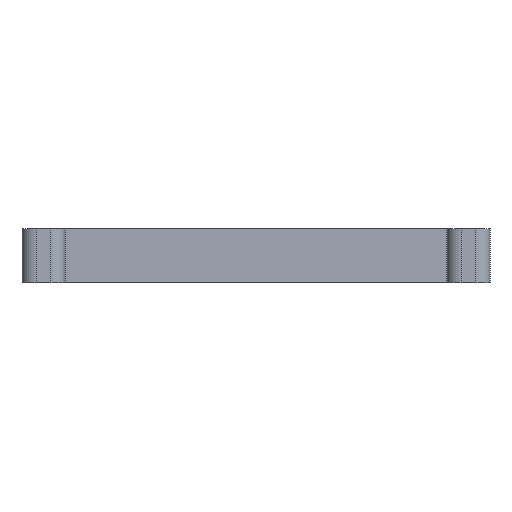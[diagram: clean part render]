
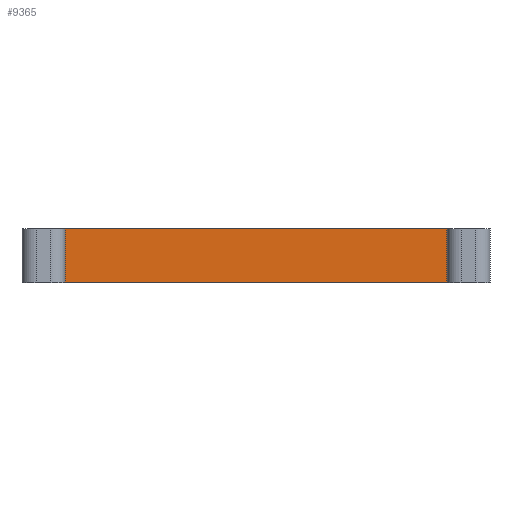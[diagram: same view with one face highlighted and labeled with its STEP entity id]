
A CAD part, front view. The second image highlights one B-rep face of the part: STEP entity #9365.
In plain terms, the highlighted planar face has unit normal (0, -1, 0).
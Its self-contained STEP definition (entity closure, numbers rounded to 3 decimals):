
#439 = DIRECTION ( 'NONE',  ( 0., 0., -1. ) ) ;
#660 = CARTESIAN_POINT ( 'NONE',  ( -26.5, -38., 7.5 ) ) ;
#1532 = ORIENTED_EDGE ( 'NONE', *, *, #10176, .F. ) ;
#1577 = AXIS2_PLACEMENT_3D ( 'NONE', #4098, #8197, #7308 ) ;
#1706 = VERTEX_POINT ( 'NONE', #660 ) ;
#1777 = CARTESIAN_POINT ( 'NONE',  ( 26.5, -38., 7.5 ) ) ;
#2279 = VERTEX_POINT ( 'NONE', #7418 ) ;
#2842 = VERTEX_POINT ( 'NONE', #7042 ) ;
#2909 = DIRECTION ( 'NONE',  ( 1., 0., 0. ) ) ;
#3057 = ORIENTED_EDGE ( 'NONE', *, *, #8725, .T. ) ;
#3144 = VECTOR ( 'NONE', #439, 1000. ) ;
#3704 = DIRECTION ( 'NONE',  ( 0., 0., -1. ) ) ;
#3814 = LINE ( 'NONE', #10233, #5009 ) ;
#4098 = CARTESIAN_POINT ( 'NONE',  ( 26.5, -38., 7.5 ) ) ;
#4277 = VECTOR ( 'NONE', #3704, 1000. ) ;
#4427 = EDGE_LOOP ( 'NONE', ( #5651, #1532, #5380, #3057 ) ) ;
#4758 = CARTESIAN_POINT ( 'NONE',  ( 26.5, -38., 7.5 ) ) ;
#4984 = EDGE_CURVE ( 'NONE', #1706, #2279, #7216, .T. ) ;
#5009 = VECTOR ( 'NONE', #2909, 1000. ) ;
#5380 = ORIENTED_EDGE ( 'NONE', *, *, #4984, .F. ) ;
#5464 = VECTOR ( 'NONE', #5637, 1000. ) ;
#5637 = DIRECTION ( 'NONE',  ( 1., 0., 0. ) ) ;
#5651 = ORIENTED_EDGE ( 'NONE', *, *, #7668, .T. ) ;
#6032 = LINE ( 'NONE', #8452, #3144 ) ;
#6642 = CARTESIAN_POINT ( 'NONE',  ( 26.5, -38., 0. ) ) ;
#7042 = CARTESIAN_POINT ( 'NONE',  ( -26.5, -38., 0. ) ) ;
#7216 = LINE ( 'NONE', #1777, #5464 ) ;
#7308 = DIRECTION ( 'NONE',  ( 0., 0., 1. ) ) ;
#7418 = CARTESIAN_POINT ( 'NONE',  ( 26.5, -38., 7.5 ) ) ;
#7450 = FACE_OUTER_BOUND ( 'NONE', #4427, .T. ) ;
#7668 = EDGE_CURVE ( 'NONE', #2842, #7930, #3814, .T. ) ;
#7930 = VERTEX_POINT ( 'NONE', #6642 ) ;
#8197 = DIRECTION ( 'NONE',  ( 0., 1., 0. ) ) ;
#8452 = CARTESIAN_POINT ( 'NONE',  ( -26.5, -38., 7.5 ) ) ;
#8725 = EDGE_CURVE ( 'NONE', #1706, #2842, #6032, .T. ) ;
#8988 = PLANE ( 'NONE',  #1577 ) ;
#9365 = ADVANCED_FACE ( 'NONE', ( #7450 ), #8988, .F. ) ;
#9545 = LINE ( 'NONE', #4758, #4277 ) ;
#10176 = EDGE_CURVE ( 'NONE', #2279, #7930, #9545, .T. ) ;
#10233 = CARTESIAN_POINT ( 'NONE',  ( 26.5, -38., 0. ) ) ;
